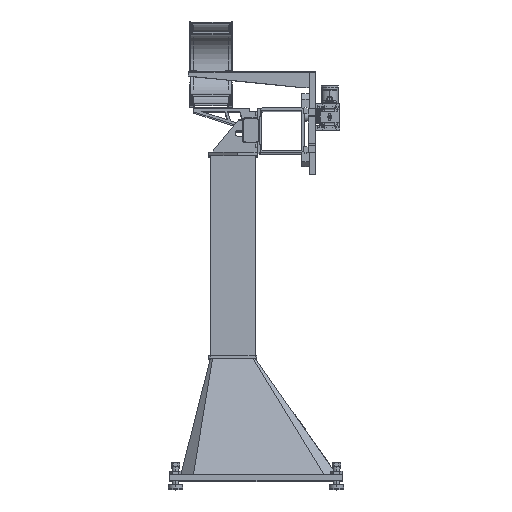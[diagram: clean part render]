
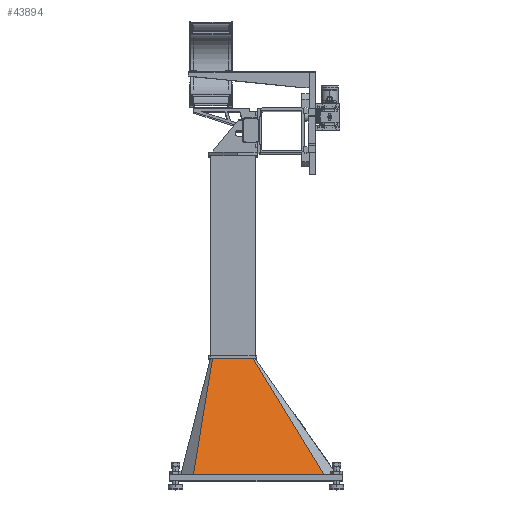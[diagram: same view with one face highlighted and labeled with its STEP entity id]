
A CAD part, top view. The second image highlights one B-rep face of the part: STEP entity #43894.
In plain terms, the highlighted planar face has unit normal (0, 0.259, 0.966).
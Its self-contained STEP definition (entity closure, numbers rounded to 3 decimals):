
#409 = LINE ( 'NONE', #5057, #33318 ) ;
#1382 = LINE ( 'NONE', #10091, #34298 ) ;
#1698 = DIRECTION ( 'NONE',  ( -0.157, -0.954, 0.256 ) ) ;
#4855 = CARTESIAN_POINT ( 'NONE',  ( 112.5, 727., 125. ) ) ;
#5057 = CARTESIAN_POINT ( 'NONE',  ( 112.5, 727., 125. ) ) ;
#5639 = DIRECTION ( 'NONE',  ( -1., 0., 0. ) ) ;
#6006 = CARTESIAN_POINT ( 'NONE',  ( -112.5, 727., 125. ) ) ;
#6859 = VERTEX_POINT ( 'NONE', #4855 ) ;
#9022 = ORIENTED_EDGE ( 'NONE', *, *, #23163, .T. ) ;
#9183 = DIRECTION ( 'NONE',  ( 0.507, -0.832, 0.223 ) ) ;
#10091 = CARTESIAN_POINT ( 'NONE',  ( 510., 75., 300. ) ) ;
#12381 = ORIENTED_EDGE ( 'NONE', *, *, #54385, .T. ) ;
#13102 = EDGE_CURVE ( 'NONE', #6859, #34159, #409, .T. ) ;
#17236 = EDGE_CURVE ( 'NONE', #33114, #34159, #1382, .T. ) ;
#17292 = CARTESIAN_POINT ( 'NONE',  ( -220., 75., 300. ) ) ;
#18817 = CARTESIAN_POINT ( 'NONE',  ( -112.5, 727., 125. ) ) ;
#23163 = EDGE_CURVE ( 'NONE', #32777, #33114, #42154, .T. ) ;
#25319 = FACE_OUTER_BOUND ( 'NONE', #48532, .T. ) ;
#27041 = CARTESIAN_POINT ( 'NONE',  ( -112.5, 727., 125. ) ) ;
#27990 = ORIENTED_EDGE ( 'NONE', *, *, #13102, .F. ) ;
#29051 = VECTOR ( 'NONE', #5639, 1000. ) ;
#29327 = DIRECTION ( 'NONE',  ( 0., -0.966, 0.259 ) ) ;
#29514 = CARTESIAN_POINT ( 'NONE',  ( 510., 75., 300. ) ) ;
#29559 = ORIENTED_EDGE ( 'NONE', *, *, #17236, .T. ) ;
#30415 = LINE ( 'NONE', #27041, #29051 ) ;
#30692 = VECTOR ( 'NONE', #1698, 1000. ) ;
#32777 = VERTEX_POINT ( 'NONE', #18817 ) ;
#33114 = VERTEX_POINT ( 'NONE', #17292 ) ;
#33318 = VECTOR ( 'NONE', #9183, 1000. ) ;
#33740 = AXIS2_PLACEMENT_3D ( 'NONE', #46226, #55015, #29327 ) ;
#34159 = VERTEX_POINT ( 'NONE', #29514 ) ;
#34298 = VECTOR ( 'NONE', #53053, 1000. ) ;
#42154 = LINE ( 'NONE', #6006, #30692 ) ;
#43894 = ADVANCED_FACE ( 'NONE', ( #25319 ), #50740, .T. ) ;
#46226 = CARTESIAN_POINT ( 'NONE',  ( 0., 80.15, 298.618 ) ) ;
#48532 = EDGE_LOOP ( 'NONE', ( #9022, #29559, #27990, #12381 ) ) ;
#50740 = PLANE ( 'NONE',  #33740 ) ;
#53053 = DIRECTION ( 'NONE',  ( 1., 0., 0. ) ) ;
#54385 = EDGE_CURVE ( 'NONE', #6859, #32777, #30415, .T. ) ;
#55015 = DIRECTION ( 'NONE',  ( 0., 0.259, 0.966 ) ) ;
